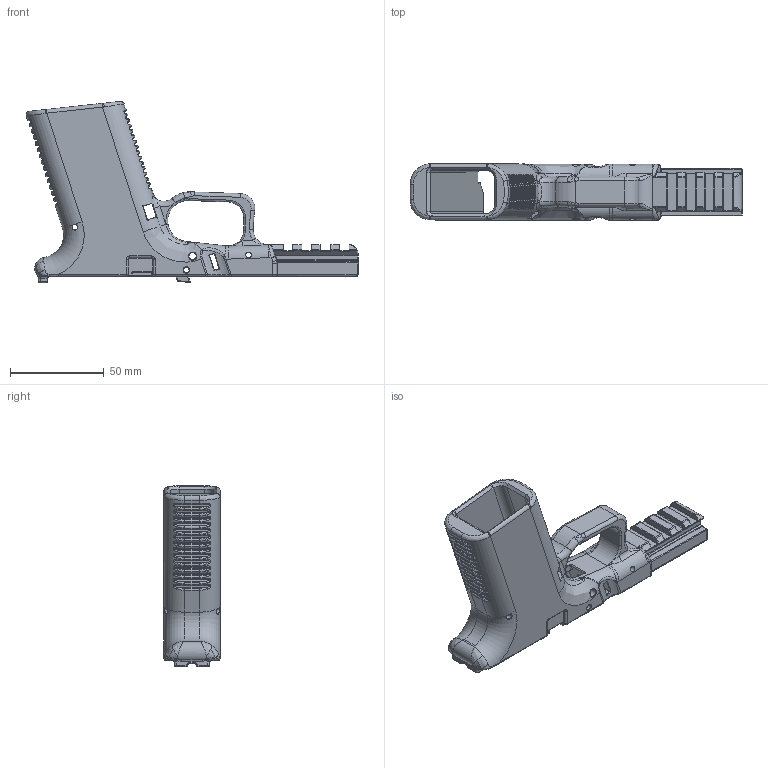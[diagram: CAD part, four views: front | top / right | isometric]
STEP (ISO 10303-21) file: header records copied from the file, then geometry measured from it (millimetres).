
FILE_DESCRIPTION(/* description */ (''),/* implementation_level */ '2;1');
FILE_NAME(/* name */ '/Users/tyler/Downloads/FreeMans P80 G19/Glock 19 P80.step',/* time_stamp */ '2019-09-18T22:15:33-04:00',/* author */ (''),/* organization */ (''),/* preprocessor_version */ 'ST-DEVELOPER v18',/* originating_system */ 'Autodesk Translation Framework v8.6.0.1094',/* authorisation */ '');
FILE_SCHEMA (('AUTOMOTIVE_DESIGN { 1 0 10303 214 3 1 1 }'));
Products named in the file (1): Glock 19 P80
Bounding box: 177.5 x 30 x 96.84 mm (x, y, z)
Volume: 87079.6 mm3; surface area: 44435.4 mm2
Topology: 1 solids, 1 shells, 1676 faces, 4033 edges, 2269 vertices
Faces by surface type: bspline 571, cylinder 568, plane 287, torus 153, sphere 79, cone 18
Full cylindrical faces by diameter (mm): 2.997 x2, 3 x5, 3.962 x2
Entity records: 65699 total; most frequent: CARTESIAN_POINT 29175, ORIENTED_EDGE 7922, DIRECTION 7337, EDGE_CURVE 3961, AXIS2_PLACEMENT_3D 3006, VERTEX_POINT 2273, EDGE_LOOP 1694, FACE_OUTER_BOUND 1676
